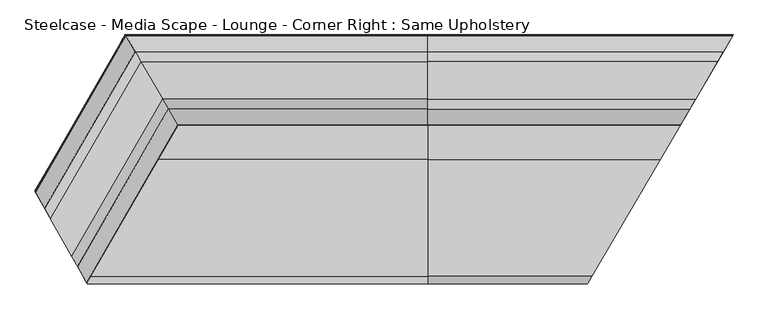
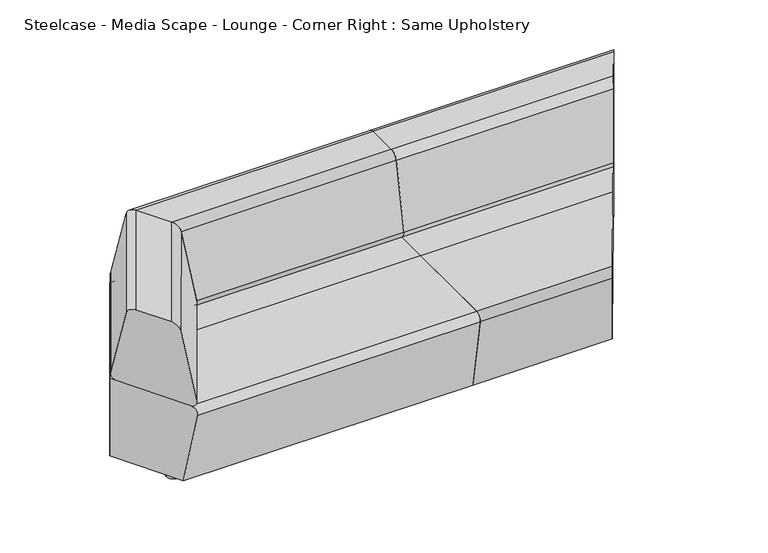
"""IFC4 building model written with IfcOpenShell, lengths in millimetres: furniture geometry, Steelcase - Media Scape - Lounge - Corner Right : Same Upholstery."""

from ifc_helpers import new_model, si_unit, point, frame, origin, place, context, project, spatial, polyline, circle_curve, ellipse_curve, trimmed, source, transform, mapped, element, save
from ifc_brep_helpers import plane_surface, cylinder_surface, revolved_surface, advanced_brep


def steelcase_media_scape_lounge_corner_right_same_upholstery_34d01177(model_context):
    return source(origin(), model_context, "Body", "AdvancedBrep", [
        advanced_brep(
        [(-532.4537919, 416.9525328, 404.4443065), (-532.4537919, 25.4465658, 404.4443065), (-532.4537919, 0.4050887, 374.7917281), (-532.4537919, 51.3770305, 74.6414242), (-532.4537919, 416.9525328, 74.6414242), (-532.4537919, 782.5280351, 74.6414242), (-532.4537919, 833.4999769, 374.7917281), (-532.4537919, 808.4584998, 404.4443065), (-1785.0534928, 416.9525328, 404.4443065), (-1845.5788132, 311.9657445, 404.4443065), (-1684.4068668, 25.4465658, 404.4443065), (-1670.3206069, 0.4050887, 374.7917281), (-1698.9931974, 51.3770305, 74.6414242), (-1845.5788132, 311.9657445, 74.6414242), (-1785.0534928, 416.9525328, 74.6414242), (-1574.2976943, 782.5280351, 74.6414242), (-1544.9121577, 833.4999769, 374.7917281), (-1559.3486735, 808.4584998, 404.4443065)],
        [
            (0, 1),
            (1, 2, circle_curve(frame((-532.4537919, 25.4465658, 379.0443065), z_axis=(1.0, 0.0, 0.0), x_axis=(0.0, -1.0, 0.0)), 25.4)),
            (2, 3),
            (3, 4),
            (4, 5),
            (5, 6),
            (6, 7, circle_curve(frame((-532.4537919, 808.4584998, 379.0443065), z_axis=(1.0, 0.0, 0.0), x_axis=(0.0, 1.0, 0.0)), 25.4)),
            (7, 0),
            (0, 8),
            (8, 9),
            (9, 10),
            (10, 1),
            (10, 11, ellipse_curve(frame((-1684.4068668, 25.4465658, 379.0443065), z_axis=(0.8715691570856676, 0.49027258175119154, 0.0), x_axis=(0.4902725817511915, -0.8715691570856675, 0.0)), 29.1428394, 25.4)),
            (11, 2),
            (11, 12),
            (12, 3),
            (12, 13),
            (13, 14),
            (14, 4),
            (14, 15),
            (15, 5),
            (15, 16),
            (16, 6),
            (16, 17, ellipse_curve(frame((-1559.3486735, 808.4584998, 379.0443065), z_axis=(0.8663426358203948, -0.49945013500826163, 0.0), x_axis=(0.4994501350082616, 0.8663426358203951, 0.0)), 29.318654, 25.4)),
            (17, 7),
            (17, 8),
            (13, 9),
        ],
        [
            plane_surface(frame((-532.4537919, -57.5722485, 404.4443065), z_axis=(1.0, 0.0, 0.0), x_axis=(0.0, -1.0, 0.0))),
            plane_surface(frame((-532.4537919, 416.9525328, 404.4443065), z_axis=(0.0, 0.0, 1.0), x_axis=(-1.0, 0.0, 0.0))),
            cylinder_surface(frame((-1864.4893496, 25.4465658, 379.0443065), z_axis=(1.0, 0.0, 0.0), x_axis=(0.0, -1.0, 0.0)), 25.4),
            plane_surface(frame((-532.4537919, 0.4050887, 374.7917281), z_axis=(0.0, -0.9858849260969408, -0.16742434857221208), x_axis=(-1.0, 0.0, 0.0))),
            plane_surface(frame((-532.4537919, 51.3770305, 74.6414242), z_axis=(0.0, 0.0, -1.0), x_axis=(-1.0, 0.0, 0.0))),
            plane_surface(frame((-532.4537919, 416.9525328, 74.6414242), z_axis=(0.0, 0.0, -1.0), x_axis=(-1.0, 0.0, 0.0))),
            plane_surface(frame((-532.4537919, 782.5280351, 74.6414242), z_axis=(0.0, 0.9858849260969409, -0.1674243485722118), x_axis=(-1.0, 0.0, 0.0))),
            cylinder_surface(frame((-1864.4893496, 808.4584998, 379.0443065), z_axis=(1.0, 0.0, 0.0), x_axis=(0.0, 1.0, 0.0)), 25.4),
            plane_surface(frame((-532.4537919, 808.4584998, 404.4443065), z_axis=(0.0, 0.0, 1.0), x_axis=(-1.0, 0.0, 0.0))),
            plane_surface(frame((-1845.5788132, 311.9657445, 1254.4761924), z_axis=(-0.8663426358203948, 0.49945013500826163, 0.0), x_axis=(0.0, 0.0, -1.0))),
            plane_surface(frame((-1651.6684478, -32.7532953, 1254.4761924), z_axis=(-0.8715691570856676, -0.49027258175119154, 0.0), x_axis=(0.0, 0.0, -1.0))),
        ],
        [
            (0, [[1, 2, 3, 4, 5, 6, 7, 8]]),
            (1, [[-1, 9, 10, 11, 12]]),
            (2, [[-2, -12, 13, 14]]),
            (3, [[-3, -14, 15, 16]]),
            (4, [[-4, -16, 17, 18, 19]]),
            (5, [[-5, -19, 20, 21]]),
            (6, [[-6, -21, 22, 23]]),
            (7, [[-7, -23, 24, 25]]),
            (8, [[-8, -25, 26, -9]]),
            (9, [[27, -10, -26, -24, -22, -20, -18]]),
            (10, [[-27, -17, -15, -13, -11]]),
        ],
    ),
        advanced_brep(
        [(-1491.2979737, 744.6053565, 735.1171206), (-1510.6041375, 778.0459957, 707.6422134), (-1812.8470169, 253.7776565, 707.6422134), (-1793.7915094, 219.9022306, 735.1171206), (-1541.7100977, 831.9253268, 434.7626426), (-1843.5491212, 308.3575131, 434.7626426), (-1527.3179704, 806.9964005, 404.4443065), (-1829.3438503, 283.1044672, 404.4443065), (-1382.7665293, 556.6156083, 404.4443065), (-1686.6691539, 29.468287, 404.4443065), (-1368.3744021, 531.686682, 434.7626426), (-1672.4638829, 4.2152411, 434.7626426), (-1399.4803623, 585.5660131, 707.6422134), (-1703.1659873, 58.7950977, 707.6422134), (-1418.7865261, 619.0066524, 735.1171206), (-1722.2214947, 92.6705237, 735.1171206)],
        [
            (0, 1, ellipse_curve(frame((-1491.2979737, 744.6053565, 701.0445646), z_axis=(-0.8660343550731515, -0.499984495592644, 0.0), x_axis=(0.4999844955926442, -0.8660343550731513, 0.0)), 39.3584391, 34.0725559)),
            (1, 2),
            (2, 3, ellipse_curve(frame((-1793.7915094, 219.9022306, 701.0445646), z_axis=(0.8715691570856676, 0.49027258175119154, 0.0), x_axis=(0.4902725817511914, -0.8715691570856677, 0.0)), 39.6169766, 34.0725559)),
            (3, 0),
            (1, 4),
            (4, 5),
            (5, 2),
            (4, 6, ellipse_curve(frame((-1527.3179704, 806.9964005, 429.8443065), z_axis=(-0.8660343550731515, -0.499984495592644, 0.0), x_axis=(0.4999844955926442, -0.8660343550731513, 0.0)), 29.3404568, 25.4)),
            (6, 7),
            (7, 5, ellipse_curve(frame((-1829.3438503, 283.1044672, 429.8443065), z_axis=(0.8715691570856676, 0.49027258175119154, 0.0), x_axis=(0.4902725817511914, -0.8715691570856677, 0.0)), 29.5331882, 25.4)),
            (6, 8),
            (8, 9),
            (9, 7),
            (8, 10, ellipse_curve(frame((-1382.7665293, 556.6156083, 429.8443065), z_axis=(-0.8660343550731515, -0.499984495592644, 0.0), x_axis=(0.49998449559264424, -0.8660343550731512, 0.0)), 29.3404568, 25.4)),
            (10, 11),
            (11, 9, ellipse_curve(frame((-1686.6691539, 29.468287, 429.8443065), z_axis=(0.8715691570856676, 0.49027258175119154, 0.0), x_axis=(0.4902725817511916, -0.8715691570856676, 0.0)), 29.5331882, 25.4)),
            (10, 12),
            (12, 13),
            (13, 11),
            (12, 14, ellipse_curve(frame((-1418.7865261, 619.0066524, 701.0445646), z_axis=(-0.8660343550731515, -0.499984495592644, 0.0), x_axis=(0.49998449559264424, -0.8660343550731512, 0.0)), 39.3584391, 34.0725559)),
            (14, 15),
            (15, 13, ellipse_curve(frame((-1722.2214947, 92.6705237, 701.0445646), z_axis=(0.8715691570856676, 0.49027258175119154, 0.0), x_axis=(0.4902725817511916, -0.8715691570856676, 0.0)), 39.6169766, 34.0725559)),
            (14, 0),
            (3, 15),
        ],
        [
            cylinder_surface(frame((-1436.6538007, 839.3907486, 701.0445646), z_axis=(-0.49945013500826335, -0.8663426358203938, 0.0), x_axis=(-0.8663426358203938, 0.49945013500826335, 0.0)), 34.0725559),
            plane_surface(frame((-1896.9387657, 107.9127099, 707.6422134), z_axis=(-0.8499458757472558, 0.4899973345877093, 0.193635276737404), x_axis=(0.4994501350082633, 0.8663426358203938, 0.0))),
            cylinder_surface(frame((-1490.6848829, 870.5398923, 429.8443065), z_axis=(-0.49945013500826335, -0.8663426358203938, 0.0), x_axis=(-0.8663426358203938, 0.49945013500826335, 0.0)), 25.4),
            plane_surface(frame((-1922.0100195, 122.366392, 404.4443065), z_axis=(0.0, 0.0, -1.0), x_axis=(0.4994501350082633, 0.8663426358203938, 0.0))),
            cylinder_surface(frame((-1273.8533586, 745.5356162, 429.8443065), z_axis=(-0.4994501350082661, -0.8663426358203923, 0.0), x_axis=(0.8663426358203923, -0.4994501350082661, 0.0)), 25.4),
            plane_surface(frame((-1683.5898699, -15.0838164, 434.7626426), z_axis=(0.849945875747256, -0.4899973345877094, 0.19363527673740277), x_axis=(0.4994501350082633, 0.8663426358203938, 0.0))),
            cylinder_surface(frame((-1327.8844408, 776.6847599, 701.0445646), z_axis=(-0.4994501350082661, -0.8663426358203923, 0.0), x_axis=(0.8663426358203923, -0.4994501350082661, 0.0)), 34.0725559),
            plane_surface(frame((-1759.2095774, 28.5112596, 735.1171206), z_axis=(0.0, 0.0, 1.0), x_axis=(0.4994501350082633, 0.8663426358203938, 0.0))),
            plane_surface(frame((-1578.9048197, 896.3511388, 783.4745435), z_axis=(0.8660343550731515, 0.499984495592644, 0.0), x_axis=(0.0, 0.0, -1.0))),
            plane_surface(frame((-1651.6684478, -32.7532953, 1254.4761924), z_axis=(-0.8715691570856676, -0.49027258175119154, 0.0), x_axis=(0.0, 0.0, -1.0))),
        ],
        [
            (0, [[1, 2, 3, 4]]),
            (1, [[5, 6, 7, -2]]),
            (2, [[8, 9, 10, -6]]),
            (3, [[11, 12, 13, -9]]),
            (4, [[14, 15, 16, -12]]),
            (5, [[17, 18, 19, -15]]),
            (6, [[20, 21, 22, -18]]),
            (7, [[23, -4, 24, -21]]),
            (8, [[-1, -23, -20, -17, -14, -11, -8, -5]]),
            (9, [[-3, -7, -10, -13, -16, -19, -22, -24]]),
        ],
    ),
        advanced_brep(
        [(-532.4537919, 744.618392, 735.1171206), (-532.4537919, 778.0460766, 707.6422134), (-532.4537919, 831.9045354, 434.7626426), (-532.4537919, 806.9852663, 404.4443065), (-532.4537919, 556.7014693, 404.4443065), (-532.4537919, 531.7822003, 434.7626426), (-532.4537919, 585.640659, 707.6422134), (-532.4537919, 619.0683436, 735.1171206), (361.6110671, 619.0683436, 735.1171206), (434.947537, 744.618392, 735.1171206), (342.0852412, 585.640659, 707.6422134), (310.6253629, 531.7822003, 434.7626426), (325.1812412, 556.7014693, 404.4443065), (471.3773629, 806.9852663, 404.4443065), (485.9332412, 831.9045354, 434.7626426), (454.4733629, 778.0460766, 707.6422134)],
        [
            (0, 1, circle_curve(frame((-532.4537919, 744.618392, 701.0445646), z_axis=(-1.0, 0.0, 0.0), x_axis=(0.0, 1.0, 0.0)), 34.0725559)),
            (1, 2),
            (2, 3, circle_curve(frame((-532.4537919, 806.9852663, 429.8443065), z_axis=(-1.0, 0.0, 0.0), x_axis=(0.0, 1.0, 0.0)), 25.4)),
            (3, 4),
            (4, 5, circle_curve(frame((-532.4537919, 556.7014693, 429.8443065), z_axis=(-1.0, 0.0, 0.0), x_axis=(0.0, -1.0, 0.0)), 25.4)),
            (5, 6),
            (6, 7, circle_curve(frame((-532.4537919, 619.0683436, 701.0445646), z_axis=(-1.0, 0.0, 0.0), x_axis=(0.0, -1.0, 0.0)), 34.0725559)),
            (7, 0),
            (7, 8),
            (8, 9),
            (9, 0),
            (6, 10),
            (10, 8, ellipse_curve(frame((361.6110671, 619.0683436, 701.0445646), z_axis=(-0.8634825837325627, 0.5043786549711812, 0.0), x_axis=(0.5043786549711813, 0.8634825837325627, 0.0)), 39.4594594, 34.0725559)),
            (5, 11),
            (11, 10),
            (4, 12),
            (12, 11, ellipse_curve(frame((325.1812412, 556.7014693, 429.8443065), z_axis=(-0.8634825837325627, 0.5043786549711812, 0.0), x_axis=(0.5043786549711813, 0.8634825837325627, 0.0)), 29.4157641, 25.4)),
            (3, 13),
            (13, 12),
            (2, 14),
            (14, 13, ellipse_curve(frame((471.3773629, 806.9852663, 429.8443065), z_axis=(-0.8634825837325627, 0.5043786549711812, 0.0), x_axis=(0.5043786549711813, 0.8634825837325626, 0.0)), 29.4157641, 25.4)),
            (1, 15),
            (15, 14),
            (9, 15, ellipse_curve(frame((434.947537, 744.618392, 701.0445646), z_axis=(-0.8634825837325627, 0.5043786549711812, 0.0), x_axis=(0.5043786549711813, 0.8634825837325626, 0.0)), 39.4594594, 34.0725559)),
        ],
        [
            plane_surface(frame((-532.4537919, 567.2050656, 735.1171206), z_axis=(-1.0, 0.0, 0.0), x_axis=(0.0, 1.0, 0.0))),
            plane_surface(frame((494.2685786, 744.618392, 735.1171206), z_axis=(0.0, 0.0, 1.0), x_axis=(-1.0, 0.0, 0.0))),
            cylinder_surface(frame((-532.4537919, 619.0683436, 701.0445646), z_axis=(1.0, 0.0, 0.0), x_axis=(0.0, -1.0, 0.0)), 34.0725559),
            plane_surface(frame((494.2685786, 585.640659, 707.6422134), z_axis=(0.0, -0.9810735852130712, 0.19363527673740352), x_axis=(-1.0, 0.0, 0.0))),
            cylinder_surface(frame((-532.4537919, 556.7014693, 429.8443065), z_axis=(1.0, 0.0, 0.0), x_axis=(0.0, -1.0, 0.0)), 25.4),
            plane_surface(frame((494.2685786, 556.7014693, 404.4443065), z_axis=(0.0, 0.0, -1.0), x_axis=(-1.0, 0.0, 0.0))),
            cylinder_surface(frame((-532.4537919, 806.9852663, 429.8443065), z_axis=(1.0, 0.0, 0.0), x_axis=(0.0, 1.0, 0.0)), 25.4),
            plane_surface(frame((494.2685786, 831.9045354, 434.7626426), z_axis=(0.0, 0.9810735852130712, 0.19363527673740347), x_axis=(-1.0, 0.0, 0.0))),
            cylinder_surface(frame((-532.4537919, 744.618392, 701.0445646), z_axis=(1.0, 0.0, 0.0), x_axis=(0.0, 1.0, 0.0)), 34.0725559),
            plane_surface(frame((501.8901158, 859.2222721, 775.7777302), z_axis=(0.8634825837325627, -0.5043786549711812, 0.0), x_axis=(0.0, 0.0, -1.0))),
        ],
        [
            (0, [[1, 2, 3, 4, 5, 6, 7, 8]]),
            (1, [[-8, 9, 10, 11]]),
            (2, [[-7, 12, 13, -9]]),
            (3, [[-6, 14, 15, -12]]),
            (4, [[-5, 16, 17, -14]]),
            (5, [[-4, 18, 19, -16]]),
            (6, [[-3, 20, 21, -18]]),
            (7, [[-2, 22, 23, -20]]),
            (8, [[-1, -11, 24, -22]]),
            (9, [[-10, -13, -15, -17, -19, -21, -23, -24]]),
        ],
    ),
        advanced_brep(
        [(-532.4537919, 416.9525328, 404.4443065), (-532.4537919, 808.4584998, 404.4443065), (-532.4537919, 833.4999769, 374.7917281), (-532.4537919, 782.5280351, 74.6414242), (-532.4537919, 416.9525328, 74.6414242), (-532.4537919, 51.3770305, 74.6414242), (-532.4537919, 0.4050887, 374.7917281), (-532.4537919, 25.4465658, 404.4443065), (243.5508969, 416.9525328, 404.4443065), (472.2379101, 808.4584998, 404.4443065), (486.8651727, 833.4999769, 374.7917281), (457.0913708, 782.5280351, 74.6414242), (243.5508969, 416.9525328, 74.6414242), (30.0104229, 51.3770305, 74.6414242), (0.236621, 0.4050887, 374.7917281), (14.8638836, 25.4465658, 404.4443065)],
        [
            (0, 1),
            (1, 2, circle_curve(frame((-532.4537919, 808.4584998, 379.0443065), z_axis=(-1.0, 0.0, 0.0), x_axis=(0.0, 1.0, 0.0)), 25.4)),
            (2, 3),
            (3, 4),
            (4, 5),
            (5, 6),
            (6, 7, circle_curve(frame((-532.4537919, 25.4465658, 379.0443065), z_axis=(-1.0, 0.0, 0.0), x_axis=(0.0, -1.0, 0.0)), 25.4)),
            (7, 0),
            (0, 8),
            (8, 9),
            (9, 1),
            (9, 10, ellipse_curve(frame((472.2379101, 808.4584998, 379.0443065), z_axis=(-0.8634825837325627, 0.5043786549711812, 0.0), x_axis=(-0.5043786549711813, -0.8634825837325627, 0.0)), 29.4157641, 25.4)),
            (10, 2),
            (10, 11),
            (11, 3),
            (11, 12),
            (12, 4),
            (12, 13),
            (13, 5),
            (13, 14),
            (14, 6),
            (14, 15, ellipse_curve(frame((14.8638836, 25.4465658, 379.0443065), z_axis=(-0.8634825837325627, 0.5043786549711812, 0.0), x_axis=(-0.5043786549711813, -0.8634825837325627, 0.0)), 29.4157641, 25.4)),
            (15, 7),
            (15, 8),
        ],
        [
            plane_surface(frame((-532.4537919, 891.4773142, 404.4443065), z_axis=(-1.0, 0.0, 0.0), x_axis=(0.0, 1.0, 0.0))),
            plane_surface(frame((-532.4537919, 416.9525328, 404.4443065), z_axis=(0.0, 0.0, 1.0), x_axis=(1.0, 0.0, 0.0))),
            cylinder_surface(frame((497.7585178, 808.4584998, 379.0443065), z_axis=(-1.0, 0.0, 0.0), x_axis=(0.0, 1.0, 0.0)), 25.4),
            plane_surface(frame((-532.4537919, 833.4999769, 374.7917281), z_axis=(0.0, 0.9858849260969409, -0.1674243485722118), x_axis=(1.0, 0.0, 0.0))),
            plane_surface(frame((-532.4537919, 782.5280351, 74.6414242), z_axis=(0.0, 0.0, -1.0), x_axis=(1.0, 0.0, 0.0))),
            plane_surface(frame((-532.4537919, 416.9525328, 74.6414242), z_axis=(0.0, 0.0, -1.0), x_axis=(1.0, 0.0, 0.0))),
            plane_surface(frame((-532.4537919, 51.3770305, 74.6414242), z_axis=(0.0, -0.9858849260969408, -0.16742434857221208), x_axis=(1.0, 0.0, 0.0))),
            cylinder_surface(frame((497.7585178, 25.4465658, 379.0443065), z_axis=(-1.0, 0.0, 0.0), x_axis=(0.0, -1.0, 0.0)), 25.4),
            plane_surface(frame((-532.4537919, 25.4465658, 404.4443065), z_axis=(0.0, 0.0, 1.0), x_axis=(1.0, 0.0, 0.0))),
            plane_surface(frame((501.8901158, 859.2222721, 775.7777302), z_axis=(0.8634825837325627, -0.5043786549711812, 0.0), x_axis=(0.0, 0.0, -1.0))),
        ],
        [
            (0, [[1, 2, 3, 4, 5, 6, 7, 8]]),
            (1, [[-1, 9, 10, 11]]),
            (2, [[-2, -11, 12, 13]]),
            (3, [[-3, -13, 14, 15]]),
            (4, [[-4, -15, 16, 17]]),
            (5, [[-5, -17, 18, 19]]),
            (6, [[-6, -19, 20, 21]]),
            (7, [[-7, -21, 22, 23]]),
            (8, [[-8, -23, 24, -9]]),
            (9, [[-10, -24, -22, -20, -18, -16, -14, -12]]),
        ],
    ),
        advanced_brep(
        [(-532.4537919, 744.618392, 735.1171206), (-532.4537919, 619.0683436, 735.1171206), (-532.4537919, 585.640659, 707.6422134), (-532.4537919, 531.7822003, 434.7626426), (-532.4537919, 556.7014693, 404.4443065), (-532.4537919, 806.9852663, 404.4443065), (-532.4537919, 831.9045354, 434.7626426), (-532.4537919, 778.0460766, 707.6422134), (-1510.6041842, 778.0460766, 707.6422134), (-1491.3054994, 744.618392, 735.1171206), (-1541.6980942, 831.9045354, 434.7626426), (-1527.3115423, 806.9852663, 404.4443065), (-1382.8160991, 556.7014693, 404.4443065), (-1368.4295472, 531.7822003, 434.7626426), (-1399.5234573, 585.640659, 707.6422134), (-1418.8221421, 619.0683436, 735.1171206)],
        [
            (0, 1),
            (1, 2, circle_curve(frame((-532.4537919, 619.0683436, 701.0445646), z_axis=(1.0, 0.0, 0.0), x_axis=(0.0, -1.0, 0.0)), 34.0725559)),
            (2, 3),
            (3, 4, circle_curve(frame((-532.4537919, 556.7014693, 429.8443065), z_axis=(1.0, 0.0, 0.0), x_axis=(0.0, -1.0, 0.0)), 25.4)),
            (4, 5),
            (5, 6, circle_curve(frame((-532.4537919, 806.9852663, 429.8443065), z_axis=(1.0, 0.0, 0.0), x_axis=(0.0, 1.0, 0.0)), 25.4)),
            (6, 7),
            (7, 0, circle_curve(frame((-532.4537919, 744.618392, 701.0445646), z_axis=(1.0, 0.0, 0.0), x_axis=(0.0, 1.0, 0.0)), 34.0725559)),
            (7, 8),
            (8, 9, ellipse_curve(frame((-1491.3054994, 744.618392, 701.0445646), z_axis=(0.8660343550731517, 0.4999844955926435, 0.0), x_axis=(-0.4999844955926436, 0.8660343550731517, 0.0)), 39.343192, 34.0725559)),
            (9, 0),
            (6, 10),
            (10, 8),
            (5, 11),
            (11, 10, ellipse_curve(frame((-1527.3115423, 806.9852663, 429.8443065), z_axis=(0.8660343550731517, 0.4999844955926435, 0.0), x_axis=(-0.4999844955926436, 0.8660343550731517, 0.0)), 29.3290905, 25.4)),
            (4, 12),
            (12, 11),
            (3, 13),
            (13, 12, ellipse_curve(frame((-1382.8160991, 556.7014693, 429.8443065), z_axis=(0.8660343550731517, 0.4999844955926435, 0.0), x_axis=(-0.4999844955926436, 0.8660343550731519, 0.0)), 29.3290905, 25.4)),
            (2, 14),
            (14, 13),
            (1, 15),
            (15, 14, ellipse_curve(frame((-1418.8221421, 619.0683436, 701.0445646), z_axis=(0.8660343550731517, 0.4999844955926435, 0.0), x_axis=(-0.4999844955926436, 0.8660343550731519, 0.0)), 39.343192, 34.0725559)),
            (9, 15),
        ],
        [
            plane_surface(frame((-532.4537919, 778.690948, 701.0445646), z_axis=(1.0, 0.0, 0.0), x_axis=(0.0, 0.0, 1.0))),
            cylinder_surface(frame((-532.4537919, 744.618392, 701.0445646), z_axis=(-1.0, 0.0, 0.0), x_axis=(0.0, 1.0, 0.0)), 34.0725559),
            plane_surface(frame((-1559.1761623, 778.0460766, 707.6422134), z_axis=(0.0, 0.9810735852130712, 0.19363527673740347), x_axis=(1.0, 0.0, 0.0))),
            cylinder_surface(frame((-532.4537919, 806.9852663, 429.8443065), z_axis=(-1.0, 0.0, 0.0), x_axis=(0.0, 1.0, 0.0)), 25.4),
            plane_surface(frame((-1559.1761623, 806.9852663, 404.4443065), z_axis=(0.0, 0.0, -1.0), x_axis=(1.0, 0.0, 0.0))),
            cylinder_surface(frame((-532.4537919, 556.7014693, 429.8443065), z_axis=(-1.0, 0.0, 0.0), x_axis=(0.0, -1.0, 0.0)), 25.4),
            plane_surface(frame((-1559.1761623, 531.7822003, 434.7626426), z_axis=(0.0, -0.9810735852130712, 0.19363527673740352), x_axis=(1.0, 0.0, 0.0))),
            cylinder_surface(frame((-532.4537919, 619.0683436, 701.0445646), z_axis=(-1.0, 0.0, 0.0), x_axis=(0.0, -1.0, 0.0)), 34.0725559),
            plane_surface(frame((-1559.1761623, 619.0683436, 735.1171206), z_axis=(0.0, 0.0, 1.0), x_axis=(1.0, 0.0, 0.0))),
            plane_surface(frame((-1312.2130898, 434.4084138, 783.4745435), z_axis=(-0.8660343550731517, -0.4999844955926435, 0.0), x_axis=(0.0, 0.0, -1.0))),
        ],
        [
            (0, [[1, 2, 3, 4, 5, 6, 7, 8]]),
            (1, [[-8, 9, 10, 11]]),
            (2, [[-7, 12, 13, -9]]),
            (3, [[-6, 14, 15, -12]]),
            (4, [[-5, 16, 17, -14]]),
            (5, [[-4, 18, 19, -16]]),
            (6, [[-3, 20, 21, -18]]),
            (7, [[-2, 22, 23, -20]]),
            (8, [[-1, -11, 24, -22]]),
            (9, [[-10, -13, -15, -17, -19, -21, -23, -24]]),
        ],
    ),
        advanced_brep(
        [(-1452.5247137, 673.0124186, 74.1561731), (-1428.7377935, 673.0124186, 74.1561731), (-1476.3116339, 673.0124186, 74.1561731), (-1478.578356, 673.0124186, 0.0), (-1426.4710714, 673.0124186, 0.0), (-1452.5247137, 673.0124186, 0.0), (-1478.578356, 673.0124186, 6.3788302), (-1426.4710714, 673.0124186, 6.3788302), (-1462.0497137, 673.0124186, 6.3788302), (-1442.9997137, 673.0124186, 6.3788302), (-1462.0497137, 673.0124186, 17.057519), (-1442.9997137, 673.0124186, 17.057519), (-1473.47983, 673.0124186, 17.057519), (-1431.5695974, 673.0124186, 17.057519)],
        [
            (0, 1),
            (1, 2, circle_curve(frame((-1452.5247137, 673.0124186, 74.1561731), z_axis=(0.0, 0.0, 1.0), x_axis=(1.0, 0.0, 0.0)), 23.7869202)),
            (2, 0),
            (2, 1, circle_curve(frame((-1452.5247137, 673.0124186, 74.1561731), z_axis=(0.0, 0.0, 1.0), x_axis=(1.0, 0.0, 0.0)), 23.7869202)),
            (3, 4, circle_curve(frame((-1452.5247137, 673.0124186, 0.0), z_axis=(0.0, 0.0, -1.0), x_axis=(1.0, 0.0, 0.0)), 26.0536423)),
            (4, 5),
            (5, 3),
            (4, 3, circle_curve(frame((-1452.5247137, 673.0124186, 0.0), z_axis=(0.0, 0.0, -1.0), x_axis=(1.0, 0.0, 0.0)), 26.0536423)),
            (6, 7, circle_curve(frame((-1452.5247137, 673.0124186, 6.3788302), z_axis=(0.0, 0.0, -1.0), x_axis=(1.0, 0.0, 0.0)), 26.0536423)),
            (7, 4, circle_curve(frame((-1426.4710714, 673.0124186, 3.1894151), z_axis=(0.0, 1.0, 0.0), x_axis=(1.0, 0.0, 0.0)), 3.1894151)),
            (3, 6, circle_curve(frame((-1478.578356, 673.0124186, 3.1894151), z_axis=(0.0, 1.0, 0.0), x_axis=(-1.0, 0.0, 0.0)), 3.1894151)),
            (7, 6, circle_curve(frame((-1452.5247137, 673.0124186, 6.3788302), z_axis=(0.0, 0.0, -1.0), x_axis=(1.0, 0.0, 0.0)), 26.0536423)),
            (8, 9, circle_curve(frame((-1452.5247137, 673.0124186, 6.3788302), z_axis=(0.0, 0.0, -1.0), x_axis=(1.0, 0.0, 0.0)), 9.525)),
            (9, 7),
            (6, 8),
            (9, 8, circle_curve(frame((-1452.5247137, 673.0124186, 6.3788302), z_axis=(0.0, 0.0, -1.0), x_axis=(1.0, 0.0, 0.0)), 9.525)),
            (10, 11, circle_curve(frame((-1452.5247137, 673.0124186, 17.057519), z_axis=(0.0, 0.0, -1.0), x_axis=(1.0, 0.0, 0.0)), 9.525)),
            (11, 9),
            (8, 10),
            (11, 10, circle_curve(frame((-1452.5247137, 673.0124186, 17.057519), z_axis=(0.0, 0.0, -1.0), x_axis=(1.0, 0.0, 0.0)), 9.525)),
            (12, 13, circle_curve(frame((-1452.5247137, 673.0124186, 17.057519), z_axis=(0.0, 0.0, -1.0), x_axis=(1.0, 0.0, 0.0)), 20.9551163)),
            (13, 11),
            (10, 12),
            (13, 12, circle_curve(frame((-1452.5247137, 673.0124186, 17.057519), z_axis=(0.0, 0.0, -1.0), x_axis=(1.0, 0.0, 0.0)), 20.9551163)),
            (1, 13),
            (12, 2),
        ],
        [
            plane_surface(frame((-1452.5247137, 673.0124186, 74.1561731), z_axis=(0.0, 0.0, 1.0), x_axis=(1.0, 0.0, 0.0))),
            plane_surface(frame((-1452.5247137, 673.0124186, 0.0), z_axis=(0.0, 0.0, -1.0), x_axis=(1.0, 0.0, 0.0))),
            revolved_surface(trimmed(ellipse_curve(frame((-1426.4710714, 673.0124186, 3.1894151), z_axis=(0.0, -1.0, 0.0), x_axis=(1.0, 0.0, 0.0)), 3.1894151, 3.1894151), [point((-1426.4710714, 673.0124186, 0.0))], [point((-1426.4710714, 673.0124186, 6.3788302))], True, "CARTESIAN"), (-1452.5247137, 673.0124186, 61.4561731), (0.0, 0.0, 1.0)),
            plane_surface(frame((-1452.5247137, 673.0124186, 6.3788302), z_axis=(0.0, 0.0, 1.0), x_axis=(1.0, 0.0, 0.0))),
            cylinder_surface(frame((-1452.5247137, 673.0124186, 61.4561731), z_axis=(0.0, 0.0, 1.0), x_axis=(1.0, 0.0, 0.0)), 9.525),
            plane_surface(frame((-1452.5247137, 673.0124186, 17.057519), z_axis=(0.0, 0.0, -1.0), x_axis=(1.0, 0.0, 0.0))),
            revolved_surface(polyline([(-1431.5695974, 673.0124186, 17.057519), (-1428.7377935, 673.0124186, 74.1561731)]), (-1452.5247137, 673.0124186, 61.4561731), (0.0, 0.0, 1.0)),
        ],
        [
            (0, [[1, 2, 3]]),
            (0, [[-3, 4, -1]]),
            (1, [[5, 6, 7]]),
            (1, [[8, -7, -6]]),
            (2, [[9, 10, -5, 11]]),
            (2, [[12, -11, -8, -10]]),
            (3, [[13, 14, -9, 15]]),
            (3, [[16, -15, -12, -14]]),
            (4, [[17, 18, -13, 19]]),
            (4, [[20, -19, -16, -18]]),
            (5, [[21, 22, -17, 23]]),
            (5, [[24, -23, -20, -22]]),
            (6, [[-2, 25, -21, 26]]),
            (6, [[-4, -26, -24, -25]]),
        ],
    ),
        advanced_brep(
        [(-1656.2997742, 196.0324711, 74.1561731), (-1632.512854, 196.0324711, 74.1561731), (-1680.0866944, 196.0324711, 74.1561731), (-1682.3534165, 196.0324711, 0.0), (-1630.2461319, 196.0324711, 0.0), (-1656.2997742, 196.0324711, 0.0), (-1682.3534165, 196.0324711, 6.3788302), (-1630.2461319, 196.0324711, 6.3788302), (-1665.8247742, 196.0324711, 6.3788302), (-1646.7747742, 196.0324711, 6.3788302), (-1665.8247742, 196.0324711, 17.057519), (-1646.7747742, 196.0324711, 17.057519), (-1677.2548905, 196.0324711, 17.057519), (-1635.3446579, 196.0324711, 17.057519)],
        [
            (0, 1),
            (1, 2, circle_curve(frame((-1656.2997742, 196.0324711, 74.1561731), z_axis=(0.0, 0.0, 1.0), x_axis=(1.0, 0.0, 0.0)), 23.7869202)),
            (2, 0),
            (2, 1, circle_curve(frame((-1656.2997742, 196.0324711, 74.1561731), z_axis=(0.0, 0.0, 1.0), x_axis=(1.0, 0.0, 0.0)), 23.7869202)),
            (3, 4, circle_curve(frame((-1656.2997742, 196.0324711, 0.0), z_axis=(0.0, 0.0, -1.0), x_axis=(1.0, 0.0, 0.0)), 26.0536423)),
            (4, 5),
            (5, 3),
            (4, 3, circle_curve(frame((-1656.2997742, 196.0324711, 0.0), z_axis=(0.0, 0.0, -1.0), x_axis=(1.0, 0.0, 0.0)), 26.0536423)),
            (6, 7, circle_curve(frame((-1656.2997742, 196.0324711, 6.3788302), z_axis=(0.0, 0.0, -1.0), x_axis=(1.0, 0.0, 0.0)), 26.0536423)),
            (7, 4, circle_curve(frame((-1630.2461319, 196.0324711, 3.1894151), z_axis=(0.0, 1.0, 0.0), x_axis=(1.0, 0.0, 0.0)), 3.1894151)),
            (3, 6, circle_curve(frame((-1682.3534165, 196.0324711, 3.1894151), z_axis=(0.0, 1.0, 0.0), x_axis=(-1.0, 0.0, 0.0)), 3.1894151)),
            (7, 6, circle_curve(frame((-1656.2997742, 196.0324711, 6.3788302), z_axis=(0.0, 0.0, -1.0), x_axis=(1.0, 0.0, 0.0)), 26.0536423)),
            (8, 9, circle_curve(frame((-1656.2997742, 196.0324711, 6.3788302), z_axis=(0.0, 0.0, -1.0), x_axis=(1.0, 0.0, 0.0)), 9.525)),
            (9, 7),
            (6, 8),
            (9, 8, circle_curve(frame((-1656.2997742, 196.0324711, 6.3788302), z_axis=(0.0, 0.0, -1.0), x_axis=(1.0, 0.0, 0.0)), 9.525)),
            (10, 11, circle_curve(frame((-1656.2997742, 196.0324711, 17.057519), z_axis=(0.0, 0.0, -1.0), x_axis=(1.0, 0.0, 0.0)), 9.525)),
            (11, 9),
            (8, 10),
            (11, 10, circle_curve(frame((-1656.2997742, 196.0324711, 17.057519), z_axis=(0.0, 0.0, -1.0), x_axis=(1.0, 0.0, 0.0)), 9.525)),
            (12, 13, circle_curve(frame((-1656.2997742, 196.0324711, 17.057519), z_axis=(0.0, 0.0, -1.0), x_axis=(1.0, 0.0, 0.0)), 20.9551163)),
            (13, 11),
            (10, 12),
            (13, 12, circle_curve(frame((-1656.2997742, 196.0324711, 17.057519), z_axis=(0.0, 0.0, -1.0), x_axis=(1.0, 0.0, 0.0)), 20.9551163)),
            (1, 13),
            (12, 2),
        ],
        [
            plane_surface(frame((-1656.2997742, 196.0324711, 74.1561731), z_axis=(0.0, 0.0, 1.0), x_axis=(1.0, 0.0, 0.0))),
            plane_surface(frame((-1656.2997742, 196.0324711, 0.0), z_axis=(0.0, 0.0, -1.0), x_axis=(1.0, 0.0, 0.0))),
            revolved_surface(trimmed(ellipse_curve(frame((-1630.2461319, 196.0324711, 3.1894151), z_axis=(0.0, -1.0, 0.0), x_axis=(1.0, 0.0, 0.0)), 3.1894151, 3.1894151), [point((-1630.2461319, 196.0324711, 0.0))], [point((-1630.2461319, 196.0324711, 6.3788302))], True, "CARTESIAN"), (-1656.2997742, 196.0324711, 61.4561731), (0.0, 0.0, 1.0)),
            plane_surface(frame((-1656.2997742, 196.0324711, 6.3788302), z_axis=(0.0, 0.0, 1.0), x_axis=(1.0, 0.0, 0.0))),
            cylinder_surface(frame((-1656.2997742, 196.0324711, 61.4561731), z_axis=(0.0, 0.0, 1.0), x_axis=(1.0, 0.0, 0.0)), 9.525),
            plane_surface(frame((-1656.2997742, 196.0324711, 17.057519), z_axis=(0.0, 0.0, -1.0), x_axis=(1.0, 0.0, 0.0))),
            revolved_surface(polyline([(-1635.3446579, 196.0324711, 17.057519), (-1632.512854, 196.0324711, 74.1561731)]), (-1656.2997742, 196.0324711, 61.4561731), (0.0, 0.0, 1.0)),
        ],
        [
            (0, [[1, 2, 3]]),
            (0, [[-3, 4, -1]]),
            (1, [[5, 6, 7]]),
            (1, [[8, -7, -6]]),
            (2, [[9, 10, -5, 11]]),
            (2, [[12, -11, -8, -10]]),
            (3, [[13, 14, -9, 15]]),
            (3, [[16, -15, -12, -14]]),
            (4, [[17, 18, -13, 19]]),
            (4, [[20, -19, -16, -18]]),
            (5, [[21, 22, -17, 23]]),
            (5, [[24, -23, -20, -22]]),
            (6, [[-2, 25, -21, 26]]),
            (6, [[-4, -26, -24, -25]]),
        ],
    ),
        advanced_brep(
        [(-16.9051759, 195.9562575, 74.1561731), (6.8817443, 195.9562575, 74.1561731), (-40.692096, 195.9562575, 74.1561731), (-42.9588181, 195.9562575, 0.0), (9.1484664, 195.9562575, 0.0), (-16.9051759, 195.9562575, 0.0), (-42.9588181, 195.9562575, 6.3788302), (9.1484664, 195.9562575, 6.3788302), (-26.4301759, 195.9562575, 6.3788302), (-7.3801759, 195.9562575, 6.3788302), (-26.4301759, 195.9562575, 17.057519), (-7.3801759, 195.9562575, 17.057519), (-37.8602921, 195.9562575, 17.057519), (4.0499404, 195.9562575, 17.057519)],
        [
            (0, 1),
            (1, 2, circle_curve(frame((-16.9051759, 195.9562575, 74.1561731), z_axis=(0.0, 0.0, 1.0), x_axis=(1.0, 0.0, 0.0)), 23.7869202)),
            (2, 0),
            (2, 1, circle_curve(frame((-16.9051759, 195.9562575, 74.1561731), z_axis=(0.0, 0.0, 1.0), x_axis=(1.0, 0.0, 0.0)), 23.7869202)),
            (3, 4, circle_curve(frame((-16.9051759, 195.9562575, 0.0), z_axis=(0.0, 0.0, -1.0), x_axis=(1.0, 0.0, 0.0)), 26.0536423)),
            (4, 5),
            (5, 3),
            (4, 3, circle_curve(frame((-16.9051759, 195.9562575, 0.0), z_axis=(0.0, 0.0, -1.0), x_axis=(1.0, 0.0, 0.0)), 26.0536423)),
            (3, 6, circle_curve(frame((-42.9588181, 195.9562575, 3.1894151), z_axis=(0.0, 1.0, 0.0), x_axis=(-1.0, 0.0, 0.0)), 3.1894151)),
            (6, 7, circle_curve(frame((-16.9051759, 195.9562575, 6.3788302), z_axis=(0.0, 0.0, -1.0), x_axis=(1.0, 0.0, 0.0)), 26.0536423)),
            (7, 4, circle_curve(frame((9.1484664, 195.9562575, 3.1894151), z_axis=(0.0, 1.0, 0.0), x_axis=(1.0, 0.0, 0.0)), 3.1894151)),
            (7, 6, circle_curve(frame((-16.9051759, 195.9562575, 6.3788302), z_axis=(0.0, 0.0, -1.0), x_axis=(1.0, 0.0, 0.0)), 26.0536423)),
            (6, 8),
            (8, 9, circle_curve(frame((-16.9051759, 195.9562575, 6.3788302), z_axis=(0.0, 0.0, -1.0), x_axis=(1.0, 0.0, 0.0)), 9.525)),
            (9, 7),
            (9, 8, circle_curve(frame((-16.9051759, 195.9562575, 6.3788302), z_axis=(0.0, 0.0, -1.0), x_axis=(1.0, 0.0, 0.0)), 9.525)),
            (8, 10),
            (10, 11, circle_curve(frame((-16.9051759, 195.9562575, 17.057519), z_axis=(0.0, 0.0, -1.0), x_axis=(1.0, 0.0, 0.0)), 9.525)),
            (11, 9),
            (11, 10, circle_curve(frame((-16.9051759, 195.9562575, 17.057519), z_axis=(0.0, 0.0, -1.0), x_axis=(1.0, 0.0, 0.0)), 9.525)),
            (10, 12),
            (12, 13, circle_curve(frame((-16.9051759, 195.9562575, 17.057519), z_axis=(0.0, 0.0, -1.0), x_axis=(1.0, 0.0, 0.0)), 20.9551163)),
            (13, 11),
            (13, 12, circle_curve(frame((-16.9051759, 195.9562575, 17.057519), z_axis=(0.0, 0.0, -1.0), x_axis=(1.0, 0.0, 0.0)), 20.9551163)),
            (1, 13),
            (12, 2),
        ],
        [
            plane_surface(frame((-16.9051759, 195.9562575, 74.1561731), z_axis=(0.0, 0.0, 1.0), x_axis=(1.0, 0.0, 0.0))),
            plane_surface(frame((-16.9051759, 195.9562575, 0.0), z_axis=(0.0, 0.0, -1.0), x_axis=(1.0, 0.0, 0.0))),
            revolved_surface(trimmed(ellipse_curve(frame((9.1484664, 195.9562575, 3.1894151), z_axis=(0.0, -1.0, 0.0), x_axis=(1.0, 0.0, 0.0)), 3.1894151, 3.1894151), [point((9.1484664, 195.9562575, 0.0))], [point((9.1484664, 195.9562575, 6.3788302))], True, "CARTESIAN"), (-16.9051759, 195.9562575, 61.4561731), (0.0, 0.0, 1.0)),
            plane_surface(frame((-16.9051759, 195.9562575, 6.3788302), z_axis=(0.0, 0.0, 1.0), x_axis=(1.0, 0.0, 0.0))),
            cylinder_surface(frame((-16.9051759, 195.9562575, 61.4561731), z_axis=(0.0, 0.0, 1.0), x_axis=(1.0, 0.0, 0.0)), 9.525),
            plane_surface(frame((-16.9051759, 195.9562575, 17.057519), z_axis=(0.0, 0.0, -1.0), x_axis=(1.0, 0.0, 0.0))),
            revolved_surface(polyline([(4.0499404, 195.9562575, 17.057519), (6.8817443, 195.9562575, 74.1561731)]), (-16.9051759, 195.9562575, 61.4561731), (0.0, 0.0, 1.0)),
        ],
        [
            (0, [[1, 2, 3]]),
            (0, [[-1, -3, 4]]),
            (1, [[5, 6, 7]]),
            (1, [[-6, 8, -7]]),
            (2, [[-5, 9, 10, 11]]),
            (2, [[-8, -11, 12, -9]]),
            (3, [[-10, 13, 14, 15]]),
            (3, [[-12, -15, 16, -13]]),
            (4, [[-14, 17, 18, 19]]),
            (4, [[-16, -19, 20, -17]]),
            (5, [[-18, 21, 22, 23]]),
            (5, [[-20, -23, 24, -21]]),
            (6, [[-2, 25, -22, 26]]),
            (6, [[-4, -26, -24, -25]]),
        ],
    ),
        advanced_brep(
        [(255.54654, 673.7182309, 74.1561731), (279.3334602, 673.7182309, 74.1561731), (231.7596199, 673.7182309, 74.1561731), (229.4928978, 673.7182309, 0.0), (281.6001823, 673.7182309, 0.0), (255.54654, 673.7182309, 0.0), (229.4928978, 673.7182309, 6.3788302), (281.6001823, 673.7182309, 6.3788302), (246.02154, 673.7182309, 6.3788302), (265.07154, 673.7182309, 6.3788302), (246.02154, 673.7182309, 17.057519), (265.07154, 673.7182309, 17.057519), (234.5914238, 673.7182309, 17.057519), (276.5016563, 673.7182309, 17.057519)],
        [
            (0, 1),
            (1, 2, circle_curve(frame((255.54654, 673.7182309, 74.1561731), z_axis=(0.0, 0.0, 1.0), x_axis=(1.0, 0.0, 0.0)), 23.7869202)),
            (2, 0),
            (2, 1, circle_curve(frame((255.54654, 673.7182309, 74.1561731), z_axis=(0.0, 0.0, 1.0), x_axis=(1.0, 0.0, 0.0)), 23.7869202)),
            (3, 4, circle_curve(frame((255.54654, 673.7182309, 0.0), z_axis=(0.0, 0.0, -1.0), x_axis=(1.0, 0.0, 0.0)), 26.0536423)),
            (4, 5),
            (5, 3),
            (4, 3, circle_curve(frame((255.54654, 673.7182309, 0.0), z_axis=(0.0, 0.0, -1.0), x_axis=(1.0, 0.0, 0.0)), 26.0536423)),
            (6, 7, circle_curve(frame((255.54654, 673.7182309, 6.3788302), z_axis=(0.0, 0.0, -1.0), x_axis=(1.0, 0.0, 0.0)), 26.0536423)),
            (7, 4, circle_curve(frame((281.6001823, 673.7182309, 3.1894151), z_axis=(0.0, 1.0, 0.0), x_axis=(1.0, 0.0, 0.0)), 3.1894151)),
            (3, 6, circle_curve(frame((229.4928978, 673.7182309, 3.1894151), z_axis=(0.0, 1.0, 0.0), x_axis=(-1.0, 0.0, 0.0)), 3.1894151)),
            (7, 6, circle_curve(frame((255.54654, 673.7182309, 6.3788302), z_axis=(0.0, 0.0, -1.0), x_axis=(1.0, 0.0, 0.0)), 26.0536423)),
            (8, 9, circle_curve(frame((255.54654, 673.7182309, 6.3788302), z_axis=(0.0, 0.0, -1.0), x_axis=(1.0, 0.0, 0.0)), 9.525)),
            (9, 7),
            (6, 8),
            (9, 8, circle_curve(frame((255.54654, 673.7182309, 6.3788302), z_axis=(0.0, 0.0, -1.0), x_axis=(1.0, 0.0, 0.0)), 9.525)),
            (10, 11, circle_curve(frame((255.54654, 673.7182309, 17.057519), z_axis=(0.0, 0.0, -1.0), x_axis=(1.0, 0.0, 0.0)), 9.525)),
            (11, 9),
            (8, 10),
            (11, 10, circle_curve(frame((255.54654, 673.7182309, 17.057519), z_axis=(0.0, 0.0, -1.0), x_axis=(1.0, 0.0, 0.0)), 9.525)),
            (12, 13, circle_curve(frame((255.54654, 673.7182309, 17.057519), z_axis=(0.0, 0.0, -1.0), x_axis=(1.0, 0.0, 0.0)), 20.9551163)),
            (13, 11),
            (10, 12),
            (13, 12, circle_curve(frame((255.54654, 673.7182309, 17.057519), z_axis=(0.0, 0.0, -1.0), x_axis=(1.0, 0.0, 0.0)), 20.9551163)),
            (1, 13),
            (12, 2),
        ],
        [
            plane_surface(frame((255.54654, 673.7182309, 74.1561731), z_axis=(0.0, 0.0, 1.0), x_axis=(1.0, 0.0, 0.0))),
            plane_surface(frame((255.54654, 673.7182309, 0.0), z_axis=(0.0, 0.0, -1.0), x_axis=(1.0, 0.0, 0.0))),
            revolved_surface(trimmed(ellipse_curve(frame((281.6001823, 673.7182309, 3.1894151), z_axis=(0.0, -1.0, 0.0), x_axis=(1.0, 0.0, 0.0)), 3.1894151, 3.1894151), [point((281.6001823, 673.7182309, 0.0))], [point((281.6001823, 673.7182309, 6.3788302))], True, "CARTESIAN"), (255.54654, 673.7182309, 61.4561731), (0.0, 0.0, 1.0)),
            plane_surface(frame((255.54654, 673.7182309, 6.3788302), z_axis=(0.0, 0.0, 1.0), x_axis=(1.0, 0.0, 0.0))),
            cylinder_surface(frame((255.54654, 673.7182309, 61.4561731), z_axis=(0.0, 0.0, 1.0), x_axis=(1.0, 0.0, 0.0)), 9.525),
            plane_surface(frame((255.54654, 673.7182309, 17.057519), z_axis=(0.0, 0.0, -1.0), x_axis=(1.0, 0.0, 0.0))),
            revolved_surface(polyline([(276.5016563, 673.7182309, 17.057519), (279.3334602, 673.7182309, 74.1561731)]), (255.54654, 673.7182309, 61.4561731), (0.0, 0.0, 1.0)),
        ],
        [
            (0, [[1, 2, 3]]),
            (0, [[-3, 4, -1]]),
            (1, [[5, 6, 7]]),
            (1, [[8, -7, -6]]),
            (2, [[9, 10, -5, 11]]),
            (2, [[12, -11, -8, -10]]),
            (3, [[13, 14, -9, 15]]),
            (3, [[16, -15, -12, -14]]),
            (4, [[17, 18, -13, 19]]),
            (4, [[20, -19, -16, -18]]),
            (5, [[21, 22, -17, 23]]),
            (5, [[24, -23, -20, -22]]),
            (6, [[-2, 25, -21, 26]]),
            (6, [[-4, -26, -24, -25]]),
        ],
    ),
    ])


if __name__ == "__main__":
    model = new_model("IFC4")
    model_context = context("Model", 3, world=origin())
    ifc_project = project(units=[si_unit("LENGTHUNIT", "METRE", prefix="MILLI")], contexts=[model_context])
    site = spatial("IfcSite", under=ifc_project)
    building = spatial("IfcBuilding", under=site)
    placement = place(None, origin())
    steelcase_media_scape_lounge_corner_right_same_upholstery_shape = steelcase_media_scape_lounge_corner_right_same_upholstery_34d01177(model_context)
    element("IfcFurniture", 1, ObjectType="Steelcase - Media Scape - Lounge - Corner Right : Same Upholstery", at=placement, inside=building, context=model_context, shape_type="MappedRepresentation", body=[
        mapped(steelcase_media_scape_lounge_corner_right_same_upholstery_shape, transform((0.0, 0.0, 0.0), x_axis=(1.0, 0.0, 0.0), y_axis=(0.0, 1.0, 0.0), z_axis=(0.0, 0.0, 1.0))),
    ])
    save(model, "model.ifc")
